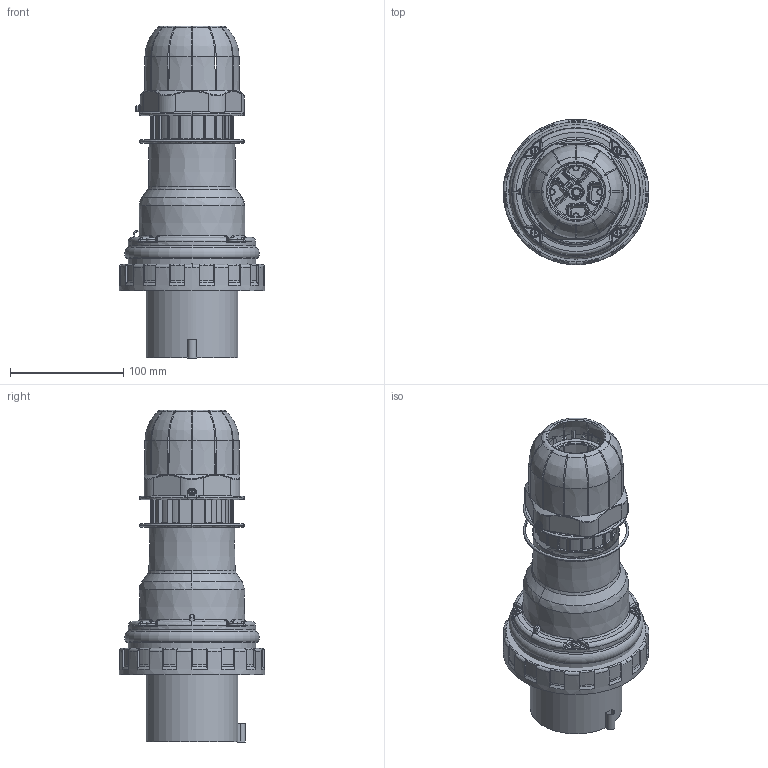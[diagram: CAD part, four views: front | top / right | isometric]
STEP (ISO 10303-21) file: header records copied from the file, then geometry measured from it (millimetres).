
FILE_DESCRIPTION(/* description */ (''),/* implementation_level */ '2;1');
FILE_NAME(/* name */ '4001200.stp',/* time_stamp */ '2017-05-09T19:24:14+02:00',/* author */ (''),/* organization */ (''),/* preprocessor_version */ 'ST-DEVELOPER v16',/* originating_system */ 'SIEMENS PLM Software NX 11.0',/* authorisation */ '');
FILE_SCHEMA (('AUTOMOTIVE_DESIGN { 1 0 10303 214 3 1 1 1 }'));
Length unit declared in the file: millimetre
Products named in the file (1): 4001200_LINKEDEXT_jt
Bounding box: 128.5 x 128.5 x 293 mm (x, y, z)
Surface area: 194798.7 mm2 (no closed solid volume)
Topology: 0 solids, 105 shells, 691 faces, 2755 edges, 2107 vertices
Faces by surface type: plane 198, bspline 187, cylinder 162, torus 72, cone 71, sphere 1
Full cylindrical faces by diameter (mm): 3.5 x1, 4.5 x2, 5.7 x1, 8 x4, 10 x3, 81 x1, 93 x1, 112.25 x1, 112.7 x1, 118.5 x1, 128.5 x1
Entity records: 55399 total; most frequent: CARTESIAN_POINT 29445, ORIENTED_EDGE 3785, DIRECTION 3720, EDGE_CURVE 2680, VERTEX_POINT 2092, AXIS2_PLACEMENT_3D 1413, LINE 894, VECTOR 894
